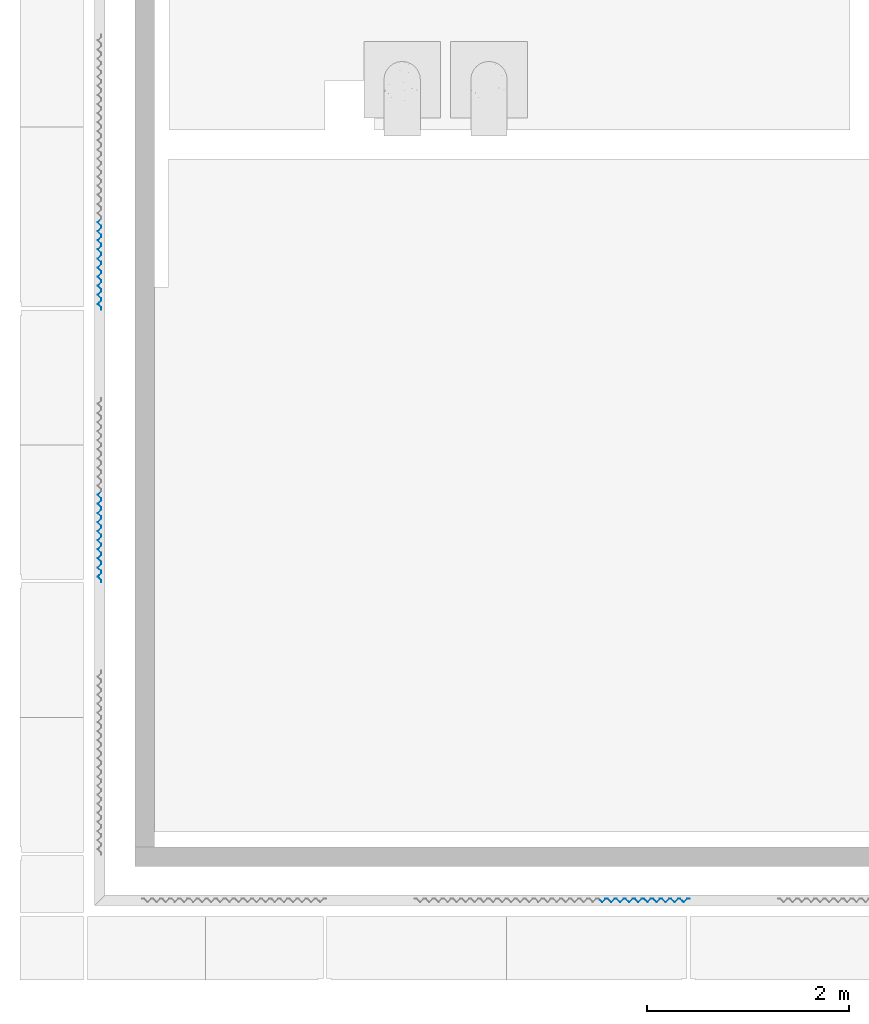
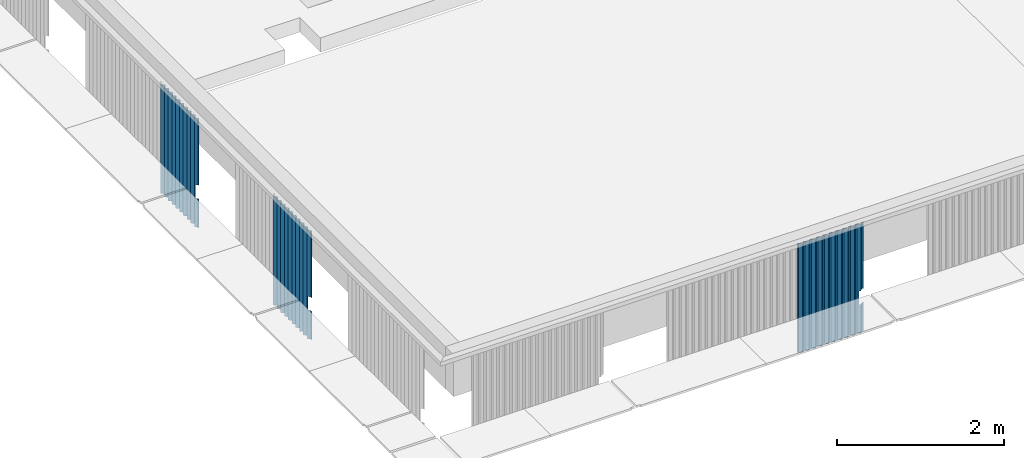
# One storey, part 18 of 37: 3 walls.
"""IFC4X3_ADD2 building model written with IfcOpenShell, lengths in millimetres."""

from ifc_helpers import new_model, si_unit, direction, frame, origin_with_axes, place, context, subcontext, project, spatial, polygons, element, save


model = new_model("IFC4X3_ADD2")

# Units and contexts
model_context = context("Model", 3, precision=1e-05, world=origin_with_axes(), true_north=direction((0.0, 1.0)))
body_context = subcontext(model_context, "Body", "Model", "MODEL_VIEW")
ifc_project = project(units=[si_unit("LENGTHUNIT", "METRE", prefix="MILLI"), si_unit("AREAUNIT", "SQUARE_METRE"), si_unit("VOLUMEUNIT", "CUBIC_METRE"), si_unit("PLANEANGLEUNIT", "RADIAN"), si_unit("TIMEUNIT", "SECOND"), si_unit("MASSUNIT", "GRAM")], contexts=[model_context])

# Site, building, storey
site_placement = place(None, origin_with_axes())
site = spatial("IfcSite", under=ifc_project, at=site_placement, Name="Site", CompositionType="ELEMENT")
building_placement = place(site_placement, origin_with_axes())
building = spatial("IfcBuilding", under=site, at=building_placement, Name="IFC Building Story")
storey_placement = place(building_placement, frame((0.0, 0.0, 14400.0), z_axis=(0.0, 0.0, 1.0), x_axis=(1.0, 0.0, 0.0)))
storey = spatial("IfcBuildingStorey", under=building, at=storey_placement, Name="040", Elevation=14400.0)

# Walls
wall_1_placement = place(storey_placement, frame((0.0, 0.0, -14400.0), z_axis=(0.0, 0.0, 1.0), x_axis=(1.0, 0.0, 0.0)))
element("IfcWall", 1, at=wall_1_placement, inside=storey, Name="BB_07.10_Gevelbekleding_PuntProfiel, 900 mm, console rechts_GMO:900 x 1600 mm", ObjectType="BB_07.10_Gevelbekleding_PuntProfiel, 900 mm, console rechts_GMO:900 x 1600 mm", PredefinedType="NOTDEFINED", context=body_context, shape_type="Tessellation", body=[
    polygons([(-39960.00000000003, -434.9999999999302, 14060.0), (-39960.00000000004, -433.5857864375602, 14060.0), (-39944.99999999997, -448.585786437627, 14060.0), (-39911.41421356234, -414.9999999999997, 14060.0), (-39888.58578643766, -414.9999999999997, 14060.0), (-39889.00000000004, -415.9999999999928, 14060.0), (-39910.99999999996, -415.9999999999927, 14060.0), (-39944.99999999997, -449.9999999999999, 14060.0), (-39960.00000000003, -434.9999999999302, 13860.0), (-39960.00000000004, -433.5857864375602, 13860.0), (-39944.99999999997, -449.9999999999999, 13860.0), (-39910.99999999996, -415.9999999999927, 13860.0), (-39889.00000000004, -415.9999999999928, 13860.0), (-39888.58578643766, -414.9999999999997, 13860.0), (-39911.41421356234, -414.9999999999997, 13860.0), (-39944.99999999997, -448.585786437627, 13860.0), (-40721.00000000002, -415.9999999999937, 15040.0), (-40699.00000000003, -415.9999999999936, 15040.0), (-40665.00000000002, -449.9999999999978, 15040.0), (-40631.00000000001, -415.9999999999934, 15040.0), (-40609.00000000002, -415.9999999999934, 15040.0), (-40575.00000000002, -449.9999999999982, 15040.0), (-40541.00000000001, -415.9999999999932, 15040.0), (-40519.00000000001, -415.9999999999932, 15040.0), (-40485.00000000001, -449.9999999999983, 15040.0), (-40450.99999999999, -415.9999999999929, 15040.0), (-40429.0, -415.9999999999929, 15040.0), (-40395.0, -449.9999999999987, 15040.0), (-40360.99999999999, -415.9999999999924, 15040.0), (-40338.99999999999, -415.9999999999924, 15040.0), (-40304.99999999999, -449.9999999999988, 15040.0), (-40270.99999999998, -415.9999999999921, 15040.0), (-40248.99999999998, -415.9999999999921, 15040.0), (-40214.99999999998, -449.9999999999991, 15040.0), (-40180.99999999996, -415.9999999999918, 15040.0), (-40158.99999999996, -415.9999999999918, 15040.0), (-40124.99999999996, -449.9999999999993, 15040.0), (-40090.99999999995, -415.9999999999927, 15040.0), (-40068.99999999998, -415.9999999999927, 15040.0), (-40034.99999999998, -449.9999999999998, 15040.0), (-40000.99999999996, -415.9999999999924, 15040.0), (-39978.99999999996, -415.9999999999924, 15040.0), (-39944.99999999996, -449.9999999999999, 15040.0), (-39910.99999999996, -415.9999999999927, 15040.0), (-39889.00000000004, -415.9999999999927, 15040.0), (-39888.58578643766, -414.9999999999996, 15040.0), (-39911.41421356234, -414.9999999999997, 15040.0), (-39944.99999999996, -448.585786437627, 15040.0), (-39978.58578643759, -414.9999999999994, 15040.0), (-40001.41421356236, -414.9999999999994, 15040.0), (-40034.99999999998, -448.5857864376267, 15040.0), (-40068.58578643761, -414.9999999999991, 15040.0), (-40091.41421356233, -414.9999999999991, 15040.0), (-40124.99999999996, -448.5857864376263, 15040.0), (-40158.58578643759, -414.9999999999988, 15040.0), (-40181.41421356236, -414.9999999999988, 15040.0), (-40214.99999999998, -448.5857864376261, 15040.0), (-40248.58578643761, -414.9999999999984, 15040.0), (-40271.41421356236, -414.9999999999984, 15040.0), (-40304.99999999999, -448.5857864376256, 15040.0), (-40338.58578643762, -414.9999999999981, 15040.0), (-40361.41421356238, -414.9999999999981, 15040.0), (-40395.0, -448.5857864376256, 15040.0), (-40428.58578643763, -414.999999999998, 15040.0), (-40451.41421356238, -414.999999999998, 15040.0), (-40485.00000000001, -448.5857864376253, 15040.0), (-40518.58578643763, -414.9999999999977, 15040.0), (-40541.41421356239, -414.9999999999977, 15040.0), (-40575.00000000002, -448.5857864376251, 15040.0), (-40608.58578643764, -414.9999999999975, 15040.0), (-40631.4142135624, -414.9999999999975, 15040.0), (-40665.00000000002, -448.5857864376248, 15040.0), (-40698.58578643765, -414.9999999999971, 15040.0), (-40721.4142135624, -414.9999999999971, 15040.0), (-40755.00000000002, -448.5857864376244, 15040.0), (-40788.58578643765, -414.9999999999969, 15040.0), (-40811.4142135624, -414.9999999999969, 15040.0), (-40811.00000000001, -415.9999999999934, 15040.0), (-40789.00000000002, -415.9999999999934, 15040.0), (-40755.00000000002, -449.9999999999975, 15040.0), (-40721.00000000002, -415.9999999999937, 13440.0), (-40755.00000000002, -449.9999999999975, 13440.0), (-40789.00000000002, -415.9999999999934, 13440.0), (-40811.00000000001, -415.9999999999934, 13440.0), (-40811.4142135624, -414.9999999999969, 13440.0), (-40788.58578643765, -414.9999999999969, 13440.0), (-40755.00000000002, -448.5857864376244, 13440.0), (-40721.4142135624, -414.9999999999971, 13440.0), (-40698.58578643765, -414.9999999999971, 13440.0), (-40665.00000000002, -448.5857864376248, 13440.0), (-40631.4142135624, -414.9999999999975, 13440.0), (-40608.58578643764, -414.9999999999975, 13440.0), (-40575.00000000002, -448.5857864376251, 13440.0), (-40541.41421356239, -414.9999999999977, 13440.0), (-40518.58578643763, -414.9999999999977, 13440.0), (-40485.00000000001, -448.5857864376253, 13440.0), (-40451.41421356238, -414.999999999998, 13440.0), (-40428.58578643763, -414.999999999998, 13440.0), (-40395.0, -448.5857864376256, 13440.0), (-40361.41421356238, -414.9999999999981, 13440.0), (-40338.58578643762, -414.9999999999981, 13440.0), (-40304.99999999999, -448.5857864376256, 13440.0), (-40271.41421356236, -414.9999999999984, 13440.0), (-40248.58578643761, -414.9999999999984, 13440.0), (-40214.99999999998, -448.5857864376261, 13440.0), (-40181.41421356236, -414.9999999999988, 13440.0), (-40158.58578643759, -414.9999999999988, 13440.0), (-40124.99999999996, -448.5857864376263, 13440.0), (-40091.41421356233, -414.9999999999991, 13440.0), (-40068.58578643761, -414.9999999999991, 13440.0), (-40034.99999999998, -448.5857864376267, 13440.0), (-40001.41421356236, -414.9999999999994, 13440.0), (-39978.58578643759, -414.9999999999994, 13440.0), (-39944.99999999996, -448.585786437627, 13440.0), (-39911.41421356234, -414.9999999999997, 13440.0), (-39888.58578643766, -414.9999999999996, 13440.0), (-39889.00000000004, -415.9999999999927, 13440.0), (-39910.99999999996, -415.9999999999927, 13440.0), (-39944.99999999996, -449.9999999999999, 13440.0), (-39978.99999999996, -415.9999999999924, 13440.0), (-40000.99999999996, -415.9999999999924, 13440.0), (-40034.99999999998, -449.9999999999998, 13440.0), (-40068.99999999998, -415.9999999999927, 13440.0), (-40090.99999999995, -415.9999999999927, 13440.0), (-40124.99999999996, -449.9999999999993, 13440.0), (-40158.99999999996, -415.9999999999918, 13440.0), (-40180.99999999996, -415.9999999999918, 13440.0), (-40214.99999999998, -449.9999999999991, 13440.0), (-40248.99999999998, -415.9999999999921, 13440.0), (-40270.99999999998, -415.9999999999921, 13440.0), (-40304.99999999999, -449.9999999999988, 13440.0), (-40338.99999999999, -415.9999999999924, 13440.0), (-40360.99999999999, -415.9999999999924, 13440.0), (-40395.0, -449.9999999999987, 13440.0), (-40429.0, -415.9999999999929, 13440.0), (-40450.99999999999, -415.9999999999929, 13440.0), (-40485.00000000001, -449.9999999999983, 13440.0), (-40519.00000000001, -415.9999999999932, 13440.0), (-40541.00000000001, -415.9999999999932, 13440.0), (-40575.00000000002, -449.9999999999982, 13440.0), (-40609.00000000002, -415.9999999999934, 13440.0), (-40631.00000000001, -415.9999999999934, 13440.0), (-40665.00000000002, -449.9999999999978, 13440.0), (-40699.00000000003, -415.9999999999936, 13440.0)], [[[7, 8, 3]], [[7, 3, 4]], [[4, 5, 6]], [[4, 6, 7]], [[8, 1, 2]], [[8, 2, 3]], [[2, 1, 9, 10]], [[12, 13, 14]], [[12, 14, 15]], [[16, 10, 9]], [[16, 9, 11]], [[11, 12, 15]], [[11, 15, 16]], [[44, 45, 46]], [[44, 46, 47]], [[48, 49, 42]], [[48, 42, 43]], [[43, 44, 47]], [[43, 47, 48]], [[49, 50, 41]], [[49, 41, 42]], [[51, 52, 39]], [[51, 39, 40]], [[40, 41, 50]], [[40, 50, 51]], [[52, 53, 38]], [[52, 38, 39]], [[54, 55, 36]], [[54, 36, 37]], [[37, 38, 53]], [[37, 53, 54]], [[55, 56, 35]], [[55, 35, 36]], [[57, 58, 33]], [[57, 33, 34]], [[34, 35, 56]], [[34, 56, 57]], [[58, 59, 32]], [[58, 32, 33]], [[60, 61, 30]], [[60, 30, 31]], [[31, 32, 59]], [[31, 59, 60]], [[61, 62, 29]], [[61, 29, 30]], [[63, 64, 27]], [[63, 27, 28]], [[28, 29, 62]], [[28, 62, 63]], [[64, 65, 26]], [[64, 26, 27]], [[66, 67, 24]], [[66, 24, 25]], [[25, 26, 65]], [[25, 65, 66]], [[67, 68, 23]], [[67, 23, 24]], [[69, 70, 21]], [[69, 21, 22]], [[22, 23, 68]], [[22, 68, 69]], [[70, 71, 20]], [[70, 20, 21]], [[72, 73, 18]], [[72, 18, 19]], [[19, 20, 71]], [[19, 71, 72]], [[73, 74, 17]], [[73, 17, 18]], [[79, 80, 75]], [[79, 75, 76]], [[76, 77, 78]], [[76, 78, 79]], [[80, 17, 74]], [[80, 74, 75]], [[83, 84, 85]], [[83, 85, 86]], [[87, 88, 81]], [[87, 81, 82]], [[82, 83, 86]], [[82, 86, 87]], [[118, 119, 114]], [[118, 114, 115]], [[115, 116, 117]], [[115, 117, 118]], [[121, 122, 111]], [[121, 111, 112]], [[112, 113, 120]], [[112, 120, 121]], [[113, 114, 119]], [[113, 119, 120]], [[124, 125, 108]], [[124, 108, 109]], [[109, 110, 123]], [[109, 123, 124]], [[110, 111, 122]], [[110, 122, 123]], [[127, 128, 105]], [[127, 105, 106]], [[106, 107, 126]], [[106, 126, 127]], [[107, 108, 125]], [[107, 125, 126]], [[130, 131, 102]], [[130, 102, 103]], [[103, 104, 129]], [[103, 129, 130]], [[104, 105, 128]], [[104, 128, 129]], [[133, 134, 99]], [[133, 99, 100]], [[100, 101, 132]], [[100, 132, 133]], [[101, 102, 131]], [[101, 131, 132]], [[136, 137, 96]], [[136, 96, 97]], [[97, 98, 135]], [[97, 135, 136]], [[98, 99, 134]], [[98, 134, 135]], [[139, 140, 93]], [[139, 93, 94]], [[94, 95, 138]], [[94, 138, 139]], [[95, 96, 137]], [[95, 137, 138]], [[142, 143, 90]], [[142, 90, 91]], [[91, 92, 141]], [[91, 141, 142]], [[92, 93, 140]], [[92, 140, 141]], [[144, 81, 88]], [[144, 88, 89]], [[89, 90, 143]], [[89, 143, 144]], [[18, 17, 81, 144]], [[19, 18, 144, 143]], [[20, 19, 143, 142]], [[21, 20, 142, 141]], [[22, 21, 141, 140]], [[23, 22, 140, 139]], [[24, 23, 139, 138]], [[25, 24, 138, 137]], [[26, 25, 137, 136]], [[27, 26, 136, 135]], [[28, 27, 135, 134]], [[29, 28, 134, 133]], [[30, 29, 133, 132]], [[31, 30, 132, 131]], [[32, 31, 131, 130]], [[33, 32, 130, 129]], [[34, 33, 129, 128]], [[35, 34, 128, 127]], [[36, 35, 127, 126]], [[37, 36, 126, 125]], [[38, 37, 125, 124]], [[54, 53, 109, 108]], [[55, 54, 108, 107]], [[56, 55, 107, 106]], [[57, 56, 106, 105]], [[58, 57, 105, 104]], [[59, 58, 104, 103]], [[60, 59, 103, 102]], [[61, 60, 102, 101]], [[62, 61, 101, 100]], [[63, 62, 100, 99]], [[64, 63, 99, 98]], [[65, 64, 98, 97]], [[66, 65, 97, 96]], [[67, 66, 96, 95]], [[68, 67, 95, 94]], [[69, 68, 94, 93]], [[70, 69, 93, 92]], [[71, 70, 92, 91]], [[72, 71, 91, 90]], [[73, 72, 90, 89]], [[74, 73, 89, 88]], [[80, 79, 83, 82]], [[17, 80, 82, 81]], [[39, 38, 124, 123]], [[40, 39, 123, 122]], [[41, 40, 122, 121]], [[42, 41, 121, 120]], [[1, 8, 43]], [[1, 43, 42]], [[42, 9, 1]], [[42, 120, 9]], [[120, 119, 11]], [[120, 11, 9]], [[44, 43, 8, 7]], [[45, 44, 7, 6]], [[47, 46, 5, 4]], [[48, 47, 4, 3]], [[10, 16, 114]], [[10, 114, 113]], [[113, 2, 10]], [[2, 113, 49]], [[49, 48, 2]], [[48, 3, 2]], [[50, 49, 113, 112]], [[51, 50, 112, 111]], [[52, 51, 111, 110]], [[53, 52, 110, 109]], [[75, 74, 88, 87]], [[76, 75, 87, 86]], [[46, 45, 6, 5]], [[77, 76, 86, 85]], [[78, 77, 85, 84]], [[79, 78, 84, 83]], [[117, 116, 14, 13]], [[115, 114, 16, 15]], [[116, 115, 15, 14]], [[118, 117, 13, 12]], [[119, 118, 12, 11]]]),
])
wall_2_placement = place(storey_placement, frame((0.0, 0.0, -14400.0), z_axis=(0.0, 0.0, 1.0), x_axis=(1.0, 0.0, 0.0)))
element("IfcWall", 2, at=wall_2_placement, inside=storey, Name="BB_07.10_Gevelbekleding_PuntProfiel, 900 mm, console rechts_GMO:900 x 1600 mm", ObjectType="BB_07.10_Gevelbekleding_PuntProfiel, 900 mm, console rechts_GMO:900 x 1600 mm", PredefinedType="NOTDEFINED", context=body_context, shape_type="Tessellation", body=[
    polygons([(-45734.99999999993, 2790.000000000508, 14060.0), (-45733.58578643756, 2790.000000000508, 14060.0), (-45748.58578643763, 2775.000000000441, 14060.0), (-45715.0, 2741.414213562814, 14060.0), (-45715.00000000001, 2718.58578643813, 14060.0), (-45716.0, 2719.00000000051, 14060.0), (-45715.99999999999, 2741.000000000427, 14060.0), (-45750.0, 2775.000000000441, 14060.0), (-45734.99999999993, 2790.000000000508, 13860.0), (-45733.58578643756, 2790.000000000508, 13860.0), (-45750.00000000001, 2775.000000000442, 13860.0), (-45716.0, 2741.000000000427, 13860.0), (-45716.0, 2719.00000000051, 13860.0), (-45715.0, 2718.58578643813, 13860.0), (-45715.0, 2741.414213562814, 13860.0), (-45748.58578643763, 2775.00000000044, 13860.0), (-45716.0, 3551.000000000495, 15040.0), (-45716.0, 3529.000000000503, 15040.0), (-45750.0, 3495.000000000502, 15040.0), (-45716.0, 3461.000000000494, 15040.0), (-45716.0, 3439.000000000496, 15040.0), (-45750.0, 3405.000000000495, 15040.0), (-45716.0, 3371.000000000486, 15040.0), (-45716.0, 3349.000000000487, 15040.0), (-45750.00000000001, 3315.000000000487, 15040.0), (-45716.0, 3281.000000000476, 15040.0), (-45716.0, 3259.000000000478, 15040.0), (-45750.00000000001, 3225.000000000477, 15040.0), (-45716.0, 3191.000000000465, 15040.0), (-45716.0, 3169.000000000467, 15040.0), (-45750.00000000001, 3135.000000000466, 15040.0), (-45716.0, 3101.000000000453, 15040.0), (-45716.0, 3079.000000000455, 15040.0), (-45750.00000000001, 3045.000000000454, 15040.0), (-45716.0, 3011.00000000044, 15040.0), (-45716.0, 2989.000000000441, 15040.0), (-45750.00000000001, 2955.000000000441, 15040.0), (-45716.0, 2921.000000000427, 15040.0), (-45716.0, 2899.000000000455, 15040.0), (-45750.00000000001, 2865.000000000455, 15040.0), (-45716.0, 2831.000000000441, 15040.0), (-45716.0, 2809.000000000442, 15040.0), (-45750.00000000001, 2775.000000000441, 15040.0), (-45716.0, 2741.000000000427, 15040.0), (-45716.0, 2719.00000000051, 15040.0), (-45715.00000000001, 2718.58578643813, 15040.0), (-45715.00000000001, 2741.414213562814, 15040.0), (-45748.58578643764, 2775.000000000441, 15040.0), (-45715.00000000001, 2808.585786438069, 15040.0), (-45715.00000000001, 2831.414213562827, 15040.0), (-45748.58578643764, 2865.000000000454, 15040.0), (-45715.00000000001, 2898.585786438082, 15040.0), (-45715.00000000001, 2921.414213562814, 15040.0), (-45748.58578643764, 2955.000000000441, 15040.0), (-45715.00000000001, 2988.585786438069, 15040.0), (-45715.00000000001, 3011.414213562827, 15040.0), (-45748.58578643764, 3045.000000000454, 15040.0), (-45715.00000000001, 3078.585786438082, 15040.0), (-45715.00000000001, 3101.414213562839, 15040.0), (-45748.58578643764, 3135.000000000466, 15040.0), (-45715.00000000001, 3168.585786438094, 15040.0), (-45715.00000000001, 3191.414213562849, 15040.0), (-45748.58578643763, 3225.000000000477, 15040.0), (-45715.00000000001, 3258.585786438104, 15040.0), (-45715.00000000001, 3281.414213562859, 15040.0), (-45748.58578643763, 3315.000000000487, 15040.0), (-45715.00000000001, 3348.585786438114, 15040.0), (-45715.00000000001, 3371.414213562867, 15040.0), (-45748.58578643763, 3405.000000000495, 15040.0), (-45715.0, 3438.585786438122, 15040.0), (-45715.0, 3461.414213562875, 15040.0), (-45748.58578643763, 3495.000000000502, 15040.0), (-45715.0, 3528.58578643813, 15040.0), (-45715.0, 3551.414213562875, 15040.0), (-45748.58578643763, 3585.000000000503, 15040.0), (-45715.0, 3618.58578643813, 15040.0), (-45715.0, 3641.414213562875, 15040.0), (-45716.0, 3641.000000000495, 15040.0), (-45716.0, 3619.000000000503, 15040.0), (-45750.0, 3585.000000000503, 15040.0), (-45716.0, 3551.000000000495, 13440.0), (-45750.0, 3585.000000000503, 13440.0), (-45716.0, 3619.000000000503, 13440.0), (-45716.0, 3641.000000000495, 13440.0), (-45715.0, 3641.414213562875, 13440.0), (-45715.0, 3618.58578643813, 13440.0), (-45748.58578643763, 3585.000000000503, 13440.0), (-45715.0, 3551.414213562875, 13440.0), (-45715.0, 3528.58578643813, 13440.0), (-45748.58578643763, 3495.000000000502, 13440.0), (-45715.0, 3461.414213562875, 13440.0), (-45715.0, 3438.585786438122, 13440.0), (-45748.58578643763, 3405.000000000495, 13440.0), (-45715.00000000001, 3371.414213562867, 13440.0), (-45715.00000000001, 3348.585786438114, 13440.0), (-45748.58578643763, 3315.000000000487, 13440.0), (-45715.00000000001, 3281.414213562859, 13440.0), (-45715.00000000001, 3258.585786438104, 13440.0), (-45748.58578643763, 3225.000000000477, 13440.0), (-45715.00000000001, 3191.414213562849, 13440.0), (-45715.00000000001, 3168.585786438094, 13440.0), (-45748.58578643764, 3135.000000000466, 13440.0), (-45715.00000000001, 3101.414213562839, 13440.0), (-45715.00000000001, 3078.585786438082, 13440.0), (-45748.58578643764, 3045.000000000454, 13440.0), (-45715.00000000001, 3011.414213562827, 13440.0), (-45715.00000000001, 2988.585786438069, 13440.0), (-45748.58578643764, 2955.000000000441, 13440.0), (-45715.00000000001, 2921.414213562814, 13440.0), (-45715.00000000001, 2898.585786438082, 13440.0), (-45748.58578643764, 2865.000000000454, 13440.0), (-45715.00000000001, 2831.414213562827, 13440.0), (-45715.00000000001, 2808.585786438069, 13440.0), (-45748.58578643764, 2775.000000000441, 13440.0), (-45715.00000000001, 2741.414213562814, 13440.0), (-45715.00000000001, 2718.58578643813, 13440.0), (-45716.0, 2719.00000000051, 13440.0), (-45716.0, 2741.000000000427, 13440.0), (-45750.00000000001, 2775.000000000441, 13440.0), (-45716.0, 2809.000000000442, 13440.0), (-45716.0, 2831.000000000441, 13440.0), (-45750.00000000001, 2865.000000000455, 13440.0), (-45716.0, 2899.000000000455, 13440.0), (-45716.0, 2921.000000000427, 13440.0), (-45750.00000000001, 2955.000000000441, 13440.0), (-45716.0, 2989.000000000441, 13440.0), (-45716.0, 3011.00000000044, 13440.0), (-45750.00000000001, 3045.000000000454, 13440.0), (-45716.0, 3079.000000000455, 13440.0), (-45716.0, 3101.000000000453, 13440.0), (-45750.00000000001, 3135.000000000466, 13440.0), (-45716.0, 3169.000000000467, 13440.0), (-45716.0, 3191.000000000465, 13440.0), (-45750.00000000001, 3225.000000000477, 13440.0), (-45716.0, 3259.000000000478, 13440.0), (-45716.0, 3281.000000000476, 13440.0), (-45750.00000000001, 3315.000000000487, 13440.0), (-45716.0, 3349.000000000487, 13440.0), (-45716.0, 3371.000000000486, 13440.0), (-45750.0, 3405.000000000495, 13440.0), (-45716.0, 3439.000000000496, 13440.0), (-45716.0, 3461.000000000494, 13440.0), (-45750.0, 3495.000000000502, 13440.0), (-45716.0, 3529.000000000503, 13440.0)], [[[7, 8, 3]], [[7, 3, 4]], [[4, 5, 6]], [[4, 6, 7]], [[8, 1, 2]], [[8, 2, 3]], [[2, 1, 9, 10]], [[12, 13, 14]], [[12, 14, 15]], [[16, 10, 9]], [[16, 9, 11]], [[11, 12, 15]], [[11, 15, 16]], [[44, 45, 46]], [[44, 46, 47]], [[48, 49, 42]], [[48, 42, 43]], [[43, 44, 47]], [[43, 47, 48]], [[49, 50, 41]], [[49, 41, 42]], [[51, 52, 39]], [[51, 39, 40]], [[40, 41, 50]], [[40, 50, 51]], [[52, 53, 38]], [[52, 38, 39]], [[54, 55, 36]], [[54, 36, 37]], [[37, 38, 53]], [[37, 53, 54]], [[55, 56, 35]], [[55, 35, 36]], [[57, 58, 33]], [[57, 33, 34]], [[34, 35, 56]], [[34, 56, 57]], [[58, 59, 32]], [[58, 32, 33]], [[60, 61, 30]], [[60, 30, 31]], [[31, 32, 59]], [[31, 59, 60]], [[61, 62, 29]], [[61, 29, 30]], [[63, 64, 27]], [[63, 27, 28]], [[28, 29, 62]], [[28, 62, 63]], [[64, 65, 26]], [[64, 26, 27]], [[66, 67, 24]], [[66, 24, 25]], [[25, 26, 65]], [[25, 65, 66]], [[67, 68, 23]], [[67, 23, 24]], [[69, 70, 21]], [[69, 21, 22]], [[22, 23, 68]], [[22, 68, 69]], [[70, 71, 20]], [[70, 20, 21]], [[72, 73, 18]], [[72, 18, 19]], [[19, 20, 71]], [[19, 71, 72]], [[73, 74, 17]], [[73, 17, 18]], [[79, 80, 75]], [[79, 75, 76]], [[76, 77, 78]], [[76, 78, 79]], [[80, 17, 74]], [[80, 74, 75]], [[83, 84, 85]], [[83, 85, 86]], [[87, 88, 81]], [[87, 81, 82]], [[82, 83, 86]], [[82, 86, 87]], [[118, 119, 114]], [[118, 114, 115]], [[115, 116, 117]], [[115, 117, 118]], [[121, 122, 111]], [[121, 111, 112]], [[112, 113, 120]], [[112, 120, 121]], [[113, 114, 119]], [[113, 119, 120]], [[124, 125, 108]], [[124, 108, 109]], [[109, 110, 123]], [[109, 123, 124]], [[110, 111, 122]], [[110, 122, 123]], [[127, 128, 105]], [[127, 105, 106]], [[106, 107, 126]], [[106, 126, 127]], [[107, 108, 125]], [[107, 125, 126]], [[130, 131, 102]], [[130, 102, 103]], [[103, 104, 129]], [[103, 129, 130]], [[104, 105, 128]], [[104, 128, 129]], [[133, 134, 99]], [[133, 99, 100]], [[100, 101, 132]], [[100, 132, 133]], [[101, 102, 131]], [[101, 131, 132]], [[136, 137, 96]], [[136, 96, 97]], [[97, 98, 135]], [[97, 135, 136]], [[98, 99, 134]], [[98, 134, 135]], [[139, 140, 93]], [[139, 93, 94]], [[94, 95, 138]], [[94, 138, 139]], [[95, 96, 137]], [[95, 137, 138]], [[142, 143, 90]], [[142, 90, 91]], [[91, 92, 141]], [[91, 141, 142]], [[92, 93, 140]], [[92, 140, 141]], [[144, 81, 88]], [[144, 88, 89]], [[89, 90, 143]], [[89, 143, 144]], [[18, 17, 81, 144]], [[19, 18, 144, 143]], [[20, 19, 143, 142]], [[21, 20, 142, 141]], [[22, 21, 141, 140]], [[23, 22, 140, 139]], [[24, 23, 139, 138]], [[25, 24, 138, 137]], [[26, 25, 137, 136]], [[27, 26, 136, 135]], [[28, 27, 135, 134]], [[29, 28, 134, 133]], [[30, 29, 133, 132]], [[31, 30, 132, 131]], [[32, 31, 131, 130]], [[33, 32, 130, 129]], [[34, 33, 129, 128]], [[35, 34, 128, 127]], [[36, 35, 127, 126]], [[37, 36, 126, 125]], [[38, 37, 125, 124]], [[54, 53, 109, 108]], [[55, 54, 108, 107]], [[56, 55, 107, 106]], [[57, 56, 106, 105]], [[58, 57, 105, 104]], [[59, 58, 104, 103]], [[60, 59, 103, 102]], [[61, 60, 102, 101]], [[62, 61, 101, 100]], [[63, 62, 100, 99]], [[64, 63, 99, 98]], [[65, 64, 98, 97]], [[66, 65, 97, 96]], [[67, 66, 96, 95]], [[68, 67, 95, 94]], [[69, 68, 94, 93]], [[70, 69, 93, 92]], [[71, 70, 92, 91]], [[72, 71, 91, 90]], [[73, 72, 90, 89]], [[74, 73, 89, 88]], [[80, 79, 83, 82]], [[17, 80, 82, 81]], [[39, 38, 124, 123]], [[40, 39, 123, 122]], [[41, 40, 122, 121]], [[42, 41, 121, 120]], [[1, 8, 43]], [[1, 43, 42]], [[42, 9, 1]], [[42, 120, 9]], [[120, 119, 11]], [[120, 11, 9]], [[44, 43, 8, 7]], [[45, 44, 7, 6]], [[47, 46, 5, 4]], [[48, 47, 4, 3]], [[10, 16, 114]], [[10, 114, 113]], [[113, 2, 10]], [[2, 113, 49]], [[49, 48, 2]], [[48, 3, 2]], [[50, 49, 113, 112]], [[51, 50, 112, 111]], [[52, 51, 111, 110]], [[53, 52, 110, 109]], [[75, 74, 88, 87]], [[76, 75, 87, 86]], [[46, 45, 6, 5]], [[77, 76, 86, 85]], [[78, 77, 85, 84]], [[79, 78, 84, 83]], [[117, 116, 14, 13]], [[115, 114, 16, 15]], [[116, 115, 15, 14]], [[118, 117, 13, 12]], [[119, 118, 12, 11]]]),
])
wall_3_placement = place(storey_placement, frame((0.0, 0.0, -14400.0), z_axis=(0.0, 0.0, 1.0), x_axis=(1.0, 0.0, 0.0)))
element("IfcWall", 3, at=wall_3_placement, inside=storey, Name="BB_07.10_Gevelbekleding_PuntProfiel, 900 mm, console rechts_GMO:900 x 1600 mm", ObjectType="BB_07.10_Gevelbekleding_PuntProfiel, 900 mm, console rechts_GMO:900 x 1600 mm", PredefinedType="NOTDEFINED", context=body_context, shape_type="Tessellation", body=[
    polygons([(-45734.99999999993, 5490.000000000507, 14060.0), (-45733.58578643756, 5490.000000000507, 14060.0), (-45748.58578643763, 5475.00000000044, 14060.0), (-45715.0, 5441.414213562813, 14060.0), (-45715.00000000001, 5418.58578643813, 14060.0), (-45716.0, 5419.000000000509, 14060.0), (-45715.99999999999, 5441.000000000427, 14060.0), (-45750.0, 5475.00000000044, 14060.0), (-45734.99999999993, 5490.000000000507, 13860.0), (-45733.58578643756, 5490.000000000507, 13860.0), (-45750.00000000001, 5475.00000000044, 13860.0), (-45716.0, 5441.000000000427, 13860.0), (-45716.0, 5419.000000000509, 13860.0), (-45715.0, 5418.58578643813, 13860.0), (-45715.0, 5441.414213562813, 13860.0), (-45748.58578643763, 5475.00000000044, 13860.0), (-45716.0, 6251.000000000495, 15040.0), (-45716.0, 6229.000000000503, 15040.0), (-45750.0, 6195.000000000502, 15040.0), (-45716.0, 6161.000000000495, 15040.0), (-45716.0, 6139.000000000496, 15040.0), (-45750.0, 6105.000000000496, 15040.0), (-45716.0, 6071.000000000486, 15040.0), (-45716.0, 6049.000000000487, 15040.0), (-45750.00000000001, 6015.000000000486, 15040.0), (-45716.0, 5981.000000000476, 15040.0), (-45716.0, 5959.000000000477, 15040.0), (-45750.00000000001, 5925.000000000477, 15040.0), (-45716.0, 5891.000000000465, 15040.0), (-45716.0, 5869.000000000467, 15040.0), (-45750.00000000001, 5835.000000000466, 15040.0), (-45716.0, 5801.000000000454, 15040.0), (-45716.0, 5779.000000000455, 15040.0), (-45750.00000000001, 5745.000000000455, 15040.0), (-45716.0, 5711.00000000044, 15040.0), (-45716.0, 5689.000000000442, 15040.0), (-45750.00000000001, 5655.00000000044, 15040.0), (-45716.0, 5621.000000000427, 15040.0), (-45716.0, 5599.000000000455, 15040.0), (-45750.00000000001, 5565.000000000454, 15040.0), (-45716.0, 5531.000000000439, 15040.0), (-45716.0, 5509.000000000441, 15040.0), (-45750.00000000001, 5475.000000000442, 15040.0), (-45716.0, 5441.000000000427, 15040.0), (-45716.0, 5419.000000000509, 15040.0), (-45715.00000000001, 5418.58578643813, 15040.0), (-45715.00000000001, 5441.414213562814, 15040.0), (-45748.58578643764, 5475.000000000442, 15040.0), (-45715.00000000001, 5508.585786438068, 15040.0), (-45715.00000000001, 5531.414213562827, 15040.0), (-45748.58578643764, 5565.000000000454, 15040.0), (-45715.00000000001, 5598.585786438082, 15040.0), (-45715.00000000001, 5621.414213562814, 15040.0), (-45748.58578643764, 5655.00000000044, 15040.0), (-45715.00000000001, 5688.585786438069, 15040.0), (-45715.00000000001, 5711.414213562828, 15040.0), (-45748.58578643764, 5745.000000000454, 15040.0), (-45715.00000000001, 5778.585786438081, 15040.0), (-45715.00000000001, 5801.414213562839, 15040.0), (-45748.58578643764, 5835.000000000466, 15040.0), (-45715.00000000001, 5868.585786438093, 15040.0), (-45715.00000000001, 5891.41421356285, 15040.0), (-45748.58578643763, 5925.000000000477, 15040.0), (-45715.00000000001, 5958.585786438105, 15040.0), (-45715.00000000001, 5981.41421356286, 15040.0), (-45748.58578643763, 6015.000000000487, 15040.0), (-45715.00000000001, 6048.585786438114, 15040.0), (-45715.00000000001, 6071.414213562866, 15040.0), (-45748.58578643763, 6105.000000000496, 15040.0), (-45715.0, 6138.585786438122, 15040.0), (-45715.0, 6161.414213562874, 15040.0), (-45748.58578643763, 6195.000000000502, 15040.0), (-45715.0, 6228.58578643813, 15040.0), (-45715.0, 6251.414213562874, 15040.0), (-45748.58578643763, 6285.000000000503, 15040.0), (-45715.0, 6318.58578643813, 15040.0), (-45715.0, 6341.414213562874, 15040.0), (-45716.0, 6341.000000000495, 15040.0), (-45716.0, 6319.000000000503, 15040.0), (-45750.0, 6285.000000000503, 15040.0), (-45716.0, 6251.000000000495, 13440.0), (-45750.0, 6285.000000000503, 13440.0), (-45716.0, 6319.000000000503, 13440.0), (-45716.0, 6341.000000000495, 13440.0), (-45715.0, 6341.414213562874, 13440.0), (-45715.0, 6318.58578643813, 13440.0), (-45748.58578643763, 6285.000000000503, 13440.0), (-45715.0, 6251.414213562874, 13440.0), (-45715.0, 6228.58578643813, 13440.0), (-45748.58578643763, 6195.000000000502, 13440.0), (-45715.0, 6161.414213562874, 13440.0), (-45715.0, 6138.585786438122, 13440.0), (-45748.58578643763, 6105.000000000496, 13440.0), (-45715.00000000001, 6071.414213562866, 13440.0), (-45715.00000000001, 6048.585786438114, 13440.0), (-45748.58578643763, 6015.000000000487, 13440.0), (-45715.00000000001, 5981.41421356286, 13440.0), (-45715.00000000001, 5958.585786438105, 13440.0), (-45748.58578643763, 5925.000000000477, 13440.0), (-45715.00000000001, 5891.41421356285, 13440.0), (-45715.00000000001, 5868.585786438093, 13440.0), (-45748.58578643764, 5835.000000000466, 13440.0), (-45715.00000000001, 5801.414213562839, 13440.0), (-45715.00000000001, 5778.585786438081, 13440.0), (-45748.58578643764, 5745.000000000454, 13440.0), (-45715.00000000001, 5711.414213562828, 13440.0), (-45715.00000000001, 5688.585786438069, 13440.0), (-45748.58578643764, 5655.00000000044, 13440.0), (-45715.00000000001, 5621.414213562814, 13440.0), (-45715.00000000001, 5598.585786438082, 13440.0), (-45748.58578643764, 5565.000000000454, 13440.0), (-45715.00000000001, 5531.414213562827, 13440.0), (-45715.00000000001, 5508.585786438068, 13440.0), (-45748.58578643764, 5475.000000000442, 13440.0), (-45715.00000000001, 5441.414213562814, 13440.0), (-45715.00000000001, 5418.58578643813, 13440.0), (-45716.0, 5419.000000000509, 13440.0), (-45716.0, 5441.000000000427, 13440.0), (-45750.00000000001, 5475.000000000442, 13440.0), (-45716.0, 5509.000000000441, 13440.0), (-45716.0, 5531.000000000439, 13440.0), (-45750.00000000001, 5565.000000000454, 13440.0), (-45716.0, 5599.000000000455, 13440.0), (-45716.0, 5621.000000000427, 13440.0), (-45750.00000000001, 5655.00000000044, 13440.0), (-45716.0, 5689.000000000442, 13440.0), (-45716.0, 5711.00000000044, 13440.0), (-45750.00000000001, 5745.000000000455, 13440.0), (-45716.0, 5779.000000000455, 13440.0), (-45716.0, 5801.000000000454, 13440.0), (-45750.00000000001, 5835.000000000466, 13440.0), (-45716.0, 5869.000000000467, 13440.0), (-45716.0, 5891.000000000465, 13440.0), (-45750.00000000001, 5925.000000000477, 13440.0), (-45716.0, 5959.000000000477, 13440.0), (-45716.0, 5981.000000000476, 13440.0), (-45750.00000000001, 6015.000000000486, 13440.0), (-45716.0, 6049.000000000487, 13440.0), (-45716.0, 6071.000000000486, 13440.0), (-45750.0, 6105.000000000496, 13440.0), (-45716.0, 6139.000000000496, 13440.0), (-45716.0, 6161.000000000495, 13440.0), (-45750.0, 6195.000000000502, 13440.0), (-45716.0, 6229.000000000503, 13440.0)], [[[7, 8, 3]], [[7, 3, 4]], [[4, 5, 6]], [[4, 6, 7]], [[8, 1, 2]], [[8, 2, 3]], [[2, 1, 9, 10]], [[12, 13, 14]], [[12, 14, 15]], [[16, 10, 9]], [[16, 9, 11]], [[11, 12, 15]], [[11, 15, 16]], [[44, 45, 46]], [[44, 46, 47]], [[48, 49, 42]], [[48, 42, 43]], [[43, 44, 47]], [[43, 47, 48]], [[49, 50, 41]], [[49, 41, 42]], [[51, 52, 39]], [[51, 39, 40]], [[40, 41, 50]], [[40, 50, 51]], [[52, 53, 38]], [[52, 38, 39]], [[54, 55, 36]], [[54, 36, 37]], [[37, 38, 53]], [[37, 53, 54]], [[55, 56, 35]], [[55, 35, 36]], [[57, 58, 33]], [[57, 33, 34]], [[34, 35, 56]], [[34, 56, 57]], [[58, 59, 32]], [[58, 32, 33]], [[60, 61, 30]], [[60, 30, 31]], [[31, 32, 59]], [[31, 59, 60]], [[61, 62, 29]], [[61, 29, 30]], [[63, 64, 27]], [[63, 27, 28]], [[28, 29, 62]], [[28, 62, 63]], [[64, 65, 26]], [[64, 26, 27]], [[66, 67, 24]], [[66, 24, 25]], [[25, 26, 65]], [[25, 65, 66]], [[67, 68, 23]], [[67, 23, 24]], [[69, 70, 21]], [[69, 21, 22]], [[22, 23, 68]], [[22, 68, 69]], [[70, 71, 20]], [[70, 20, 21]], [[72, 73, 18]], [[72, 18, 19]], [[19, 20, 71]], [[19, 71, 72]], [[73, 74, 17]], [[73, 17, 18]], [[79, 80, 75]], [[79, 75, 76]], [[76, 77, 78]], [[76, 78, 79]], [[80, 17, 74]], [[80, 74, 75]], [[83, 84, 85]], [[83, 85, 86]], [[87, 88, 81]], [[87, 81, 82]], [[82, 83, 86]], [[82, 86, 87]], [[118, 119, 114]], [[118, 114, 115]], [[115, 116, 117]], [[115, 117, 118]], [[121, 122, 111]], [[121, 111, 112]], [[112, 113, 120]], [[112, 120, 121]], [[113, 114, 119]], [[113, 119, 120]], [[124, 125, 108]], [[124, 108, 109]], [[109, 110, 123]], [[109, 123, 124]], [[110, 111, 122]], [[110, 122, 123]], [[127, 128, 105]], [[127, 105, 106]], [[106, 107, 126]], [[106, 126, 127]], [[107, 108, 125]], [[107, 125, 126]], [[130, 131, 102]], [[130, 102, 103]], [[103, 104, 129]], [[103, 129, 130]], [[104, 105, 128]], [[104, 128, 129]], [[133, 134, 99]], [[133, 99, 100]], [[100, 101, 132]], [[100, 132, 133]], [[101, 102, 131]], [[101, 131, 132]], [[136, 137, 96]], [[136, 96, 97]], [[97, 98, 135]], [[97, 135, 136]], [[98, 99, 134]], [[98, 134, 135]], [[139, 140, 93]], [[139, 93, 94]], [[94, 95, 138]], [[94, 138, 139]], [[95, 96, 137]], [[95, 137, 138]], [[142, 143, 90]], [[142, 90, 91]], [[91, 92, 141]], [[91, 141, 142]], [[92, 93, 140]], [[92, 140, 141]], [[144, 81, 88]], [[144, 88, 89]], [[89, 90, 143]], [[89, 143, 144]], [[18, 17, 81, 144]], [[19, 18, 144, 143]], [[20, 19, 143, 142]], [[21, 20, 142, 141]], [[22, 21, 141, 140]], [[23, 22, 140, 139]], [[24, 23, 139, 138]], [[25, 24, 138, 137]], [[26, 25, 137, 136]], [[27, 26, 136, 135]], [[28, 27, 135, 134]], [[29, 28, 134, 133]], [[30, 29, 133, 132]], [[31, 30, 132, 131]], [[32, 31, 131, 130]], [[33, 32, 130, 129]], [[34, 33, 129, 128]], [[35, 34, 128, 127]], [[36, 35, 127, 126]], [[37, 36, 126, 125]], [[38, 37, 125, 124]], [[54, 53, 109, 108]], [[55, 54, 108, 107]], [[56, 55, 107, 106]], [[57, 56, 106, 105]], [[58, 57, 105, 104]], [[59, 58, 104, 103]], [[60, 59, 103, 102]], [[61, 60, 102, 101]], [[62, 61, 101, 100]], [[63, 62, 100, 99]], [[64, 63, 99, 98]], [[65, 64, 98, 97]], [[66, 65, 97, 96]], [[67, 66, 96, 95]], [[68, 67, 95, 94]], [[69, 68, 94, 93]], [[70, 69, 93, 92]], [[71, 70, 92, 91]], [[72, 71, 91, 90]], [[73, 72, 90, 89]], [[74, 73, 89, 88]], [[80, 79, 83, 82]], [[17, 80, 82, 81]], [[39, 38, 124, 123]], [[40, 39, 123, 122]], [[41, 40, 122, 121]], [[42, 41, 121, 120]], [[1, 8, 43]], [[1, 43, 42]], [[42, 9, 1]], [[42, 120, 9]], [[120, 119, 11]], [[120, 11, 9]], [[44, 43, 8, 7]], [[45, 44, 7, 6]], [[47, 46, 5, 4]], [[48, 47, 4, 3]], [[10, 16, 114]], [[10, 114, 113]], [[113, 2, 10]], [[2, 113, 49]], [[49, 48, 2]], [[48, 3, 2]], [[50, 49, 113, 112]], [[51, 50, 112, 111]], [[52, 51, 111, 110]], [[53, 52, 110, 109]], [[75, 74, 88, 87]], [[76, 75, 87, 86]], [[46, 45, 6, 5]], [[77, 76, 86, 85]], [[78, 77, 85, 84]], [[79, 78, 84, 83]], [[117, 116, 14, 13]], [[115, 114, 16, 15]], [[116, 115, 15, 14]], [[118, 117, 13, 12]], [[119, 118, 12, 11]]]),
])

save(model, "model.ifc")
